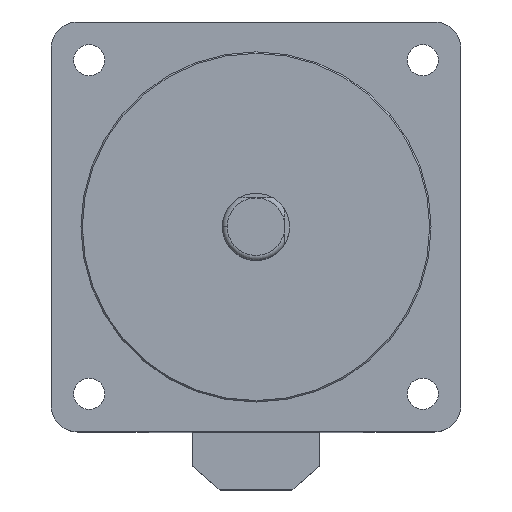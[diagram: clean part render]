
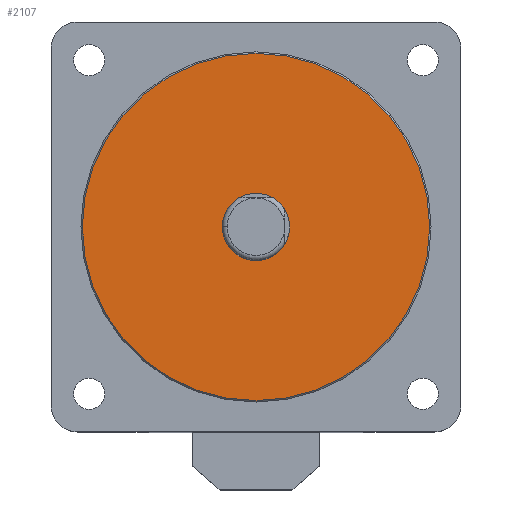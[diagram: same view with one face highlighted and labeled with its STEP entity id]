
A CAD part, top view. The second image highlights one B-rep face of the part: STEP entity #2107.
In plain terms, the highlighted planar face has unit normal (0, 0, 1).
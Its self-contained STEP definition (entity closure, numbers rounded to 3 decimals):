
#65 = CARTESIAN_POINT ( 'NONE',  ( 0., 0., 0. ) ) ;
#190 = CARTESIAN_POINT ( 'NONE',  ( -7., 0., 0. ) ) ;
#256 = DIRECTION ( 'NONE',  ( 0., 0., 1. ) ) ;
#279 = EDGE_CURVE ( 'NONE', #606, #2413, #1201, .T. ) ;
#288 = ORIENTED_EDGE ( 'NONE', *, *, #1397, .T. ) ;
#291 = VERTEX_POINT ( 'NONE', #2155 ) ;
#341 = EDGE_LOOP ( 'NONE', ( #288, #994 ) ) ;
#344 = PLANE ( 'NONE',  #2187 ) ;
#541 = CARTESIAN_POINT ( 'NONE',  ( 0., 0., 0. ) ) ;
#556 = DIRECTION ( 'NONE',  ( -1., 0., 0. ) ) ;
#606 = VERTEX_POINT ( 'NONE', #806 ) ;
#702 = VERTEX_POINT ( 'NONE', #190 ) ;
#728 = DIRECTION ( 'NONE',  ( -1., 0., 0. ) ) ;
#777 = EDGE_CURVE ( 'NONE', #291, #702, #1165, .T. ) ;
#806 = CARTESIAN_POINT ( 'NONE',  ( -36.212, 0., 0. ) ) ;
#842 = DIRECTION ( 'NONE',  ( 0., 0., -1. ) ) ;
#994 = ORIENTED_EDGE ( 'NONE', *, *, #777, .T. ) ;
#1014 = DIRECTION ( 'NONE',  ( 0., 0., -1. ) ) ;
#1110 = CARTESIAN_POINT ( 'NONE',  ( 36.212, 0., 0. ) ) ;
#1165 = CIRCLE ( 'NONE', #2268, 7. ) ;
#1180 = CIRCLE ( 'NONE', #2044, 7. ) ;
#1201 = CIRCLE ( 'NONE', #1371, 36.212 ) ;
#1295 = CARTESIAN_POINT ( 'NONE',  ( 0., 0., 0. ) ) ;
#1349 = EDGE_LOOP ( 'NONE', ( #2074, #1426 ) ) ;
#1371 = AXIS2_PLACEMENT_3D ( 'NONE', #541, #256, #2698 ) ;
#1397 = EDGE_CURVE ( 'NONE', #702, #291, #1180, .T. ) ;
#1406 = DIRECTION ( 'NONE',  ( -1., 0., 0. ) ) ;
#1421 = CIRCLE ( 'NONE', #1449, 36.212 ) ;
#1426 = ORIENTED_EDGE ( 'NONE', *, *, #2421, .T. ) ;
#1449 = AXIS2_PLACEMENT_3D ( 'NONE', #2707, #2431, #2162 ) ;
#1688 = DIRECTION ( 'NONE',  ( 0., 0., -1. ) ) ;
#1763 = FACE_OUTER_BOUND ( 'NONE', #1349, .T. ) ;
#1955 = CARTESIAN_POINT ( 'NONE',  ( 0., 0., 0. ) ) ;
#2044 = AXIS2_PLACEMENT_3D ( 'NONE', #1295, #1014, #728 ) ;
#2074 = ORIENTED_EDGE ( 'NONE', *, *, #279, .T. ) ;
#2107 = ADVANCED_FACE ( 'NONE', ( #1763, #2122 ), #344, .F. ) ;
#2122 = FACE_BOUND ( 'NONE', #341, .T. ) ;
#2155 = CARTESIAN_POINT ( 'NONE',  ( 7., 0., 0. ) ) ;
#2162 = DIRECTION ( 'NONE',  ( -1., 0., 0. ) ) ;
#2187 = AXIS2_PLACEMENT_3D ( 'NONE', #1955, #1688, #1406 ) ;
#2268 = AXIS2_PLACEMENT_3D ( 'NONE', #65, #842, #556 ) ;
#2413 = VERTEX_POINT ( 'NONE', #1110 ) ;
#2421 = EDGE_CURVE ( 'NONE', #2413, #606, #1421, .T. ) ;
#2431 = DIRECTION ( 'NONE',  ( 0., 0., 1. ) ) ;
#2698 = DIRECTION ( 'NONE',  ( -1., 0., 0. ) ) ;
#2707 = CARTESIAN_POINT ( 'NONE',  ( 0., 0., 0. ) ) ;
